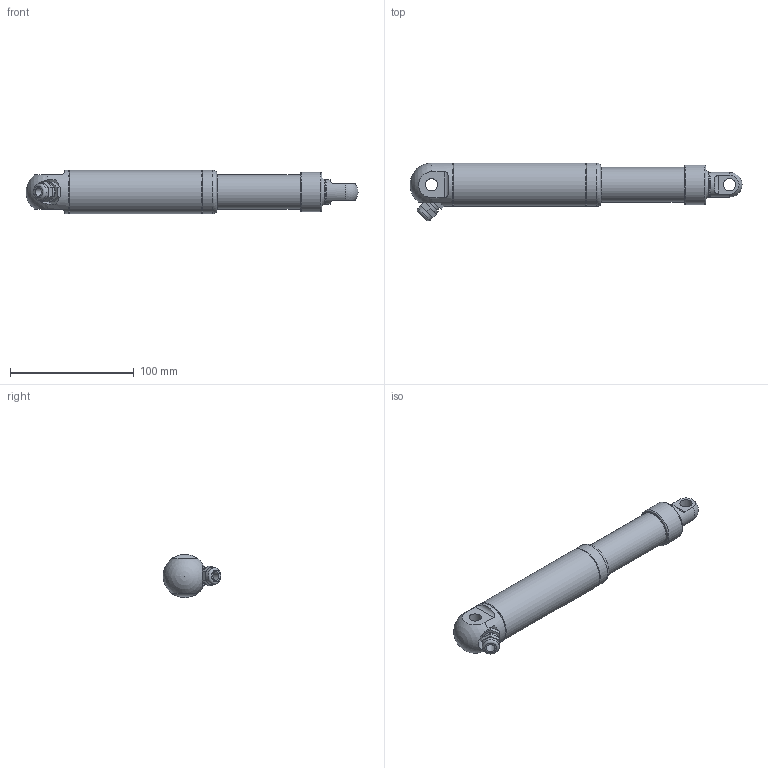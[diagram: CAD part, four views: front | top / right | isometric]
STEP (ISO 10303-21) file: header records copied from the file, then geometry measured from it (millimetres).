
FILE_DESCRIPTION(/* description */ ('STEP AP203'),/* implementation_level */ '2;1');
FILE_NAME(/* name */ '350050-713236E449900_0-0',/* time_stamp */ '2026-02-25T11:23:16+01:00',/* author */ ('License CC BY-ND 4.0'),/* organization */ ('CADENAS'),/* preprocessor_version */ 'ST-DEVELOPER v20',/* originating_system */ 'PARTsolutions',/* authorisation */ ' ');
FILE_SCHEMA (('CONFIG_CONTROL_DESIGN'));
Length unit declared in the file: millimetre
Products named in the file (6): 350050-713236E449900_0-0; 350050713E494---(1_b)---(Shortened view 0); 35005044---(1_p)---(Shortened view 0); 354---(bp); 3549---(r); 35364E4---(bb)
Assembly tree (5 placements, depth 2):
  350050-713236E449900_0-0
    350050713E494---(1_b)---(Shortened view 0)
    35005044---(1_p)---(Shortened view 0)
    354---(bp)
    3549---(r)
    35364E4---(bb)
Bounding box: 268.5 x 46.67 x 35 mm (x, y, z)
Volume: 193277.6 mm3; surface area: 47215.6 mm2
Topology: 5 solids, 5 shells, 75 faces, 157 edges, 101 vertices
Faces by surface type: plane 38, cylinder 23, cone 8, torus 4, sphere 2
Full cylindrical faces by diameter (mm): 7 x1, 10 x2, 10.5 x1, 13.7 x2, 20 x4, 23.7 x1, 24 x1, 28 x1, 28.2 x1, 32 x1, 35 x3
Entity records: 1949 total; most frequent: CARTESIAN_POINT 363, DIRECTION 330, ORIENTED_EDGE 232, AXIS2_PLACEMENT_3D 140, EDGE_LOOP 122, FACE_BOUND 122, EDGE_CURVE 116, VERTEX_POINT 92
